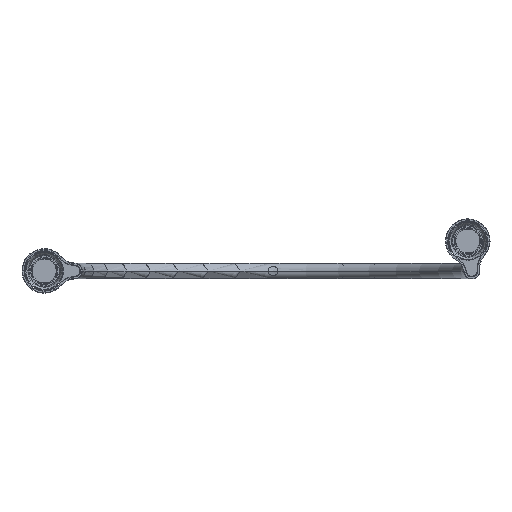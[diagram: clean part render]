
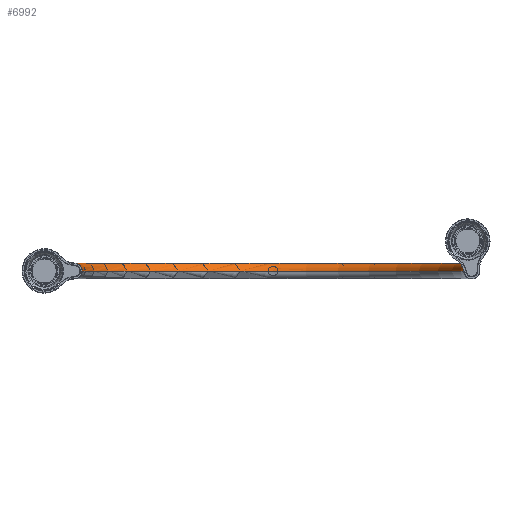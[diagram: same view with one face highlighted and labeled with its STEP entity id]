
A CAD part, front view. The second image highlights one B-rep face of the part: STEP entity #6992.
In plain terms, the highlighted toroidal (fillet/blend) face has major radius 125 mm and minor radius 5 mm.
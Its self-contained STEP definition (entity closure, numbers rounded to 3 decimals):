
#49 = FACE_OUTER_BOUND ( 'NONE', #5606, .T. ) ;
#269 = CARTESIAN_POINT ( 'NONE',  ( -127.1, 179.908, 0.795 ) ) ;
#304 = CARTESIAN_POINT ( 'NONE',  ( -129.797, 179., 3. ) ) ;
#314 = CARTESIAN_POINT ( 'NONE',  ( -132.901, 179.909, 0.791 ) ) ;
#464 = ORIENTED_EDGE ( 'NONE', *, *, #6118, .F. ) ;
#816 = ORIENTED_EDGE ( 'NONE', *, *, #6647, .F. ) ;
#914 = CARTESIAN_POINT ( 'NONE',  ( -130., 179., 3. ) ) ;
#1043 = CARTESIAN_POINT ( 'NONE',  ( -250., 50., 0. ) ) ;
#1210 = CARTESIAN_POINT ( 'NONE',  ( -127., 179.965, 0.202 ) ) ;
#1256 = CARTESIAN_POINT ( 'NONE',  ( -127.748, 179.569, 1.992 ) ) ;
#1322 = CIRCLE ( 'NONE', #7253, 5. ) ;
#1372 = DIRECTION ( 'NONE',  ( -1., 0., 0. ) ) ;
#1666 = CARTESIAN_POINT ( 'NONE',  ( -133., 179.965, 0. ) ) ;
#1682 = CARTESIAN_POINT ( 'NONE',  ( -130., 50., 0. ) ) ;
#1773 = B_SPLINE_CURVE_WITH_KNOTS ( 'NONE', 3,
 ( #7007, #8999, #8075, #10972, #12075, #11990, #12164, #4374, #7309, #6398, #3309, #3358, #6349, #3440, #314, #5244, #11155, #5281 ),
 .UNSPECIFIED., .F., .F.,
 ( 4, 2, 2, 2, 2, 2, 2, 2, 4 ),
 ( 0.011, 0.012, 0.013, 0.013, 0.014, 0.014, 0.015, 0.016, 0.016 ),
 .UNSPECIFIED. ) ;
#2048 = ORIENTED_EDGE ( 'NONE', *, *, #5665, .T. ) ;
#2266 = CARTESIAN_POINT ( 'NONE',  ( -129.207, 179.071, 2.9 ) ) ;
#2312 = CARTESIAN_POINT ( 'NONE',  ( -255., 50., 0. ) ) ;
#2534 = ORIENTED_EDGE ( 'NONE', *, *, #7056, .T. ) ;
#2598 = DIRECTION ( 'NONE',  ( -1., 0., 0. ) ) ;
#2604 = EDGE_CURVE ( 'NONE', #9286, #9155, #1773, .T. ) ;
#2616 = DIRECTION ( 'NONE',  ( 0., 0., 1. ) ) ;
#2832 = DIRECTION ( 'NONE',  ( -1., 0., 0. ) ) ;
#3003 = CARTESIAN_POINT ( 'NONE',  ( -130., 50., 0. ) ) ;
#3215 = CARTESIAN_POINT ( 'NONE',  ( -127., 179.965, 0. ) ) ;
#3309 = CARTESIAN_POINT ( 'NONE',  ( -132.38, 179.632, 1.837 ) ) ;
#3358 = CARTESIAN_POINT ( 'NONE',  ( -132.595, 179.741, 1.517 ) ) ;
#3440 = CARTESIAN_POINT ( 'NONE',  ( -132.841, 179.875, 0.985 ) ) ;
#3464 = VERTEX_POINT ( 'NONE', #1043 ) ;
#3514 = CIRCLE ( 'NONE', #6013, 120. ) ;
#4141 = EDGE_CURVE ( 'NONE', #3464, #11042, #3514, .T. ) ;
#4198 = DIRECTION ( 'NONE',  ( 0., 0., 1. ) ) ;
#4264 = ORIENTED_EDGE ( 'NONE', *, *, #2604, .T. ) ;
#4374 = CARTESIAN_POINT ( 'NONE',  ( -131.837, 179.386, 2.38 ) ) ;
#4678 = AXIS2_PLACEMENT_3D ( 'NONE', #6646, #6609, #2616 ) ;
#5194 = CARTESIAN_POINT ( 'NONE',  ( -127.625, 179.63, 1.843 ) ) ;
#5244 = CARTESIAN_POINT ( 'NONE',  ( -132.98, 179.954, 0.402 ) ) ;
#5281 = CARTESIAN_POINT ( 'NONE',  ( -133., 179.965, 0. ) ) ;
#5320 = TOROIDAL_SURFACE ( 'NONE', #6240, 125., 5. ) ;
#5421 = AXIS2_PLACEMENT_3D ( 'NONE', #3003, #9901, #11912 ) ;
#5606 = EDGE_LOOP ( 'NONE', ( #8275, #464, #11296, #2534, #816, #2048, #4264 ) ) ;
#5611 = DIRECTION ( 'NONE',  ( 0., 0., -1. ) ) ;
#5663 = B_SPLINE_CURVE_WITH_KNOTS ( 'NONE', 3,
 ( #3215, #1210, #6212, #269, #8112, #11058, #10163, #5194, #1256, #12110, #12066, #7165, #12155, #8154, #2266, #10200, #304, #11143 ),
 .UNSPECIFIED., .F., .F.,
 ( 4, 2, 2, 2, 2, 2, 2, 2, 4 ),
 ( 0.007, 0.007, 0.008, 0.008, 0.009, 0.01, 0.01, 0.011, 0.011 ),
 .UNSPECIFIED. ) ;
#5665 = EDGE_CURVE ( 'NONE', #6827, #9286, #5663, .T. ) ;
#5770 = CARTESIAN_POINT ( 'NONE',  ( 0., 50., 0. ) ) ;
#5879 = CARTESIAN_POINT ( 'NONE',  ( -130., 50., 0. ) ) ;
#5929 = DIRECTION ( 'NONE',  ( 0., 0., -1. ) ) ;
#6013 = AXIS2_PLACEMENT_3D ( 'NONE', #11226, #12141, #1372 ) ;
#6118 = EDGE_CURVE ( 'NONE', #3464, #11759, #1322, .T. ) ;
#6157 = CARTESIAN_POINT ( 'NONE',  ( -127., 179.965, 0. ) ) ;
#6166 = CARTESIAN_POINT ( 'NONE',  ( -260., 50., 0. ) ) ;
#6212 = CARTESIAN_POINT ( 'NONE',  ( -127.021, 179.953, 0.404 ) ) ;
#6227 = CIRCLE ( 'NONE', #4678, 5. ) ;
#6240 = AXIS2_PLACEMENT_3D ( 'NONE', #1682, #5611, #2598 ) ;
#6329 = CARTESIAN_POINT ( 'NONE',  ( -10., 50., 0. ) ) ;
#6349 = CARTESIAN_POINT ( 'NONE',  ( -132.688, 179.791, 1.347 ) ) ;
#6398 = CARTESIAN_POINT ( 'NONE',  ( -132.255, 179.571, 1.988 ) ) ;
#6609 = DIRECTION ( 'NONE',  ( 0., 1., 0. ) ) ;
#6646 = CARTESIAN_POINT ( 'NONE',  ( -5., 50., 0. ) ) ;
#6647 = EDGE_CURVE ( 'NONE', #6827, #9625, #11512, .T. ) ;
#6827 = VERTEX_POINT ( 'NONE', #6157 ) ;
#6992 = ADVANCED_FACE ( 'NONE', ( #49 ), #5320, .T. ) ;
#7007 = CARTESIAN_POINT ( 'NONE',  ( -130., 179., 3. ) ) ;
#7056 = EDGE_CURVE ( 'NONE', #11042, #9625, #6227, .T. ) ;
#7165 = CARTESIAN_POINT ( 'NONE',  ( -128.489, 179.265, 2.599 ) ) ;
#7253 = AXIS2_PLACEMENT_3D ( 'NONE', #2312, #9222, #4198 ) ;
#7309 = CARTESIAN_POINT ( 'NONE',  ( -131.984, 179.448, 2.258 ) ) ;
#8075 = CARTESIAN_POINT ( 'NONE',  ( -130.404, 179.015, 2.979 ) ) ;
#8112 = CARTESIAN_POINT ( 'NONE',  ( -127.16, 179.874, 0.987 ) ) ;
#8154 = CARTESIAN_POINT ( 'NONE',  ( -129.015, 179.112, 2.84 ) ) ;
#8275 = ORIENTED_EDGE ( 'NONE', *, *, #11339, .F. ) ;
#8999 = CARTESIAN_POINT ( 'NONE',  ( -130.203, 179., 3. ) ) ;
#9155 = VERTEX_POINT ( 'NONE', #1666 ) ;
#9222 = DIRECTION ( 'NONE',  ( 0., -1., 0. ) ) ;
#9286 = VERTEX_POINT ( 'NONE', #914 ) ;
#9625 = VERTEX_POINT ( 'NONE', #5770 ) ;
#9901 = DIRECTION ( 'NONE',  ( 0., 0., -1. ) ) ;
#10163 = CARTESIAN_POINT ( 'NONE',  ( -127.407, 179.74, 1.521 ) ) ;
#10200 = CARTESIAN_POINT ( 'NONE',  ( -129.598, 179.015, 2.98 ) ) ;
#10972 = CARTESIAN_POINT ( 'NONE',  ( -130.793, 179.071, 2.9 ) ) ;
#11042 = VERTEX_POINT ( 'NONE', #6329 ) ;
#11058 = CARTESIAN_POINT ( 'NONE',  ( -127.314, 179.79, 1.35 ) ) ;
#11143 = CARTESIAN_POINT ( 'NONE',  ( -130., 179., 3. ) ) ;
#11155 = CARTESIAN_POINT ( 'NONE',  ( -133., 179.965, 0.203 ) ) ;
#11226 = CARTESIAN_POINT ( 'NONE',  ( -130., 50., 0. ) ) ;
#11296 = ORIENTED_EDGE ( 'NONE', *, *, #4141, .T. ) ;
#11339 = EDGE_CURVE ( 'NONE', #11759, #9155, #12193, .T. ) ;
#11512 = CIRCLE ( 'NONE', #5421, 130. ) ;
#11759 = VERTEX_POINT ( 'NONE', #6166 ) ;
#11882 = AXIS2_PLACEMENT_3D ( 'NONE', #5879, #5929, #2832 ) ;
#11912 = DIRECTION ( 'NONE',  ( -1., 0., 0. ) ) ;
#11990 = CARTESIAN_POINT ( 'NONE',  ( -131.345, 179.21, 2.689 ) ) ;
#12066 = CARTESIAN_POINT ( 'NONE',  ( -128.168, 179.384, 2.384 ) ) ;
#12075 = CARTESIAN_POINT ( 'NONE',  ( -130.985, 179.112, 2.84 ) ) ;
#12110 = CARTESIAN_POINT ( 'NONE',  ( -128.019, 179.447, 2.261 ) ) ;
#12141 = DIRECTION ( 'NONE',  ( 0., 0., -1. ) ) ;
#12155 = CARTESIAN_POINT ( 'NONE',  ( -128.658, 179.209, 2.69 ) ) ;
#12164 = CARTESIAN_POINT ( 'NONE',  ( -131.516, 179.266, 2.596 ) ) ;
#12193 = CIRCLE ( 'NONE', #11882, 130. ) ;
